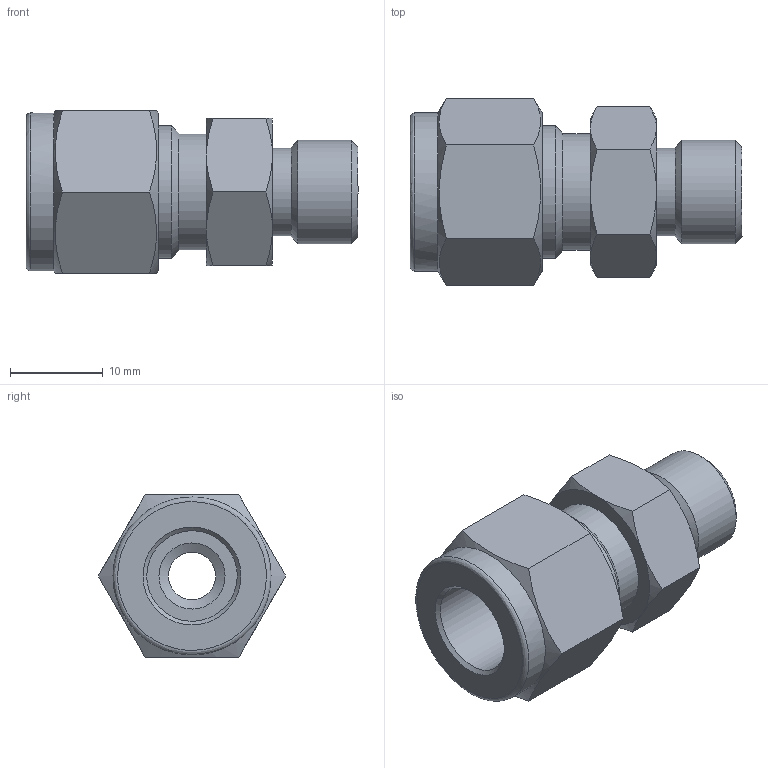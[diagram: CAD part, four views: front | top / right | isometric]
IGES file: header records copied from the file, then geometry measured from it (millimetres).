
Global section: file name: SSMC-6-4U; native system: Autodesk Inventor 2016; preprocessor: unknown; author: DESIGNPC2; date: 20160125.095356; units: millimetre
Bounding box: 35.71 x 20.16 x 17.46 mm (x, y, z)
Volume: 4978.9 mm3; surface area: 3191.2 mm2
Topology: 1 solids, 1 shells, 49 faces, 124 edges, 83 vertices
Faces by surface type: bspline 49
